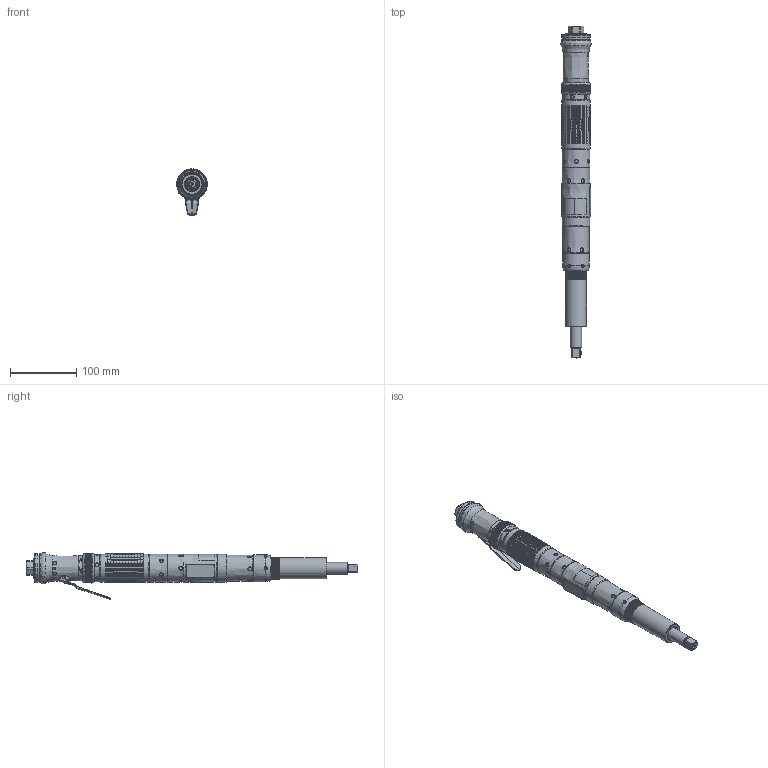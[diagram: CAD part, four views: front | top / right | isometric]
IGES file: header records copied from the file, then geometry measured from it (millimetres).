
Global section: file name: T:\siji\siji2\QA8 STRAIGHT SHUTOFF\16595126\16595126.igs; native system: Unigraphics Version X V2.0; preprocessor: Unigraphics NX IGES V2.0; date: 20070515.143702; units: inch
Bounding box: 46.21 x 501.51 x 70.45 mm (x, y, z)
Surface area: 90441.6 mm2 (no closed solid volume)
Topology: 0 solids, 0 shells, 1156 faces, 13947 edges, 13757 vertices
Faces by surface type: revolution 613, extrusion 513, bspline 28, offset 2
